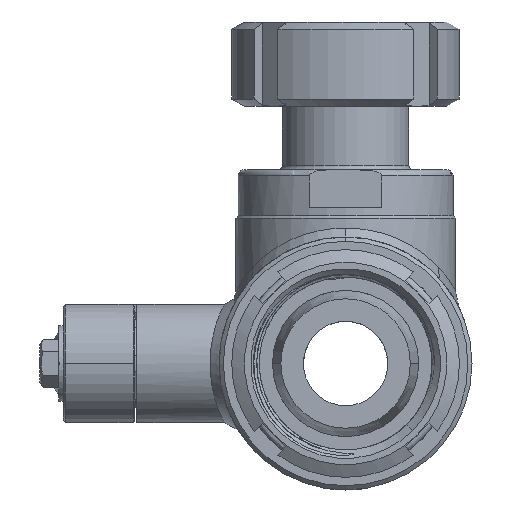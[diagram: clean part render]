
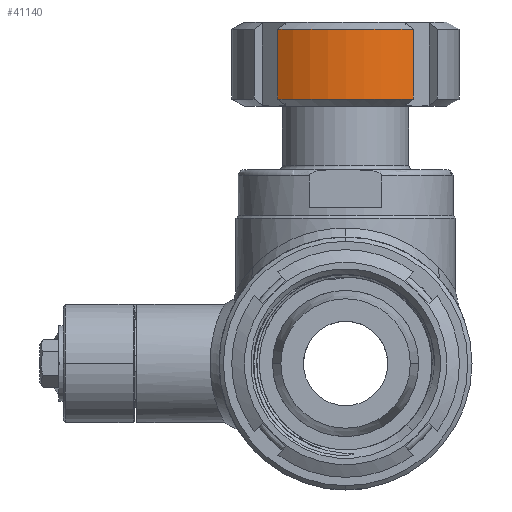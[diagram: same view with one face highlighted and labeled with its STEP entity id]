
A CAD part, left-side view. The second image highlights one B-rep face of the part: STEP entity #41140.
In plain terms, the highlighted cylindrical face has radius 27 mm (diameter 54 mm), a partial arc.
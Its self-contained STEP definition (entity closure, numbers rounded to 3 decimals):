
#4198=CARTESIAN_POINT('',(0.,0.,-62.732));
#4199=DIRECTION('',(0.,0.,-1.));
#4200=DIRECTION('',(0.595,-0.804,0.));
#4201=AXIS2_PLACEMENT_3D('',#4198,#4199,#4200);
#4214=CARTESIAN_POINT('',(16.053,-21.71,
-62.732));
#4231=CARTESIAN_POINT('',(16.053,-21.71,
-79.268));
#4241=DIRECTION('',(0.,0.,-1.));
#4242=VECTOR('',#4241,16.536);
#4243=CARTESIAN_POINT('',(16.053,-21.71,
-62.732));
#4244=LINE('',#4243,#4242);
#4571=CARTESIAN_POINT('',(-16.053,-21.71,
-62.732));
#4576=DIRECTION('',(0.,0.,-1.));
#4577=VECTOR('',#4576,16.536);
#4578=CARTESIAN_POINT('',(-16.053,-21.71,
-62.732));
#4579=LINE('',#4578,#4577);
#4588=CARTESIAN_POINT('',(-16.053,-21.71,
-79.268));
#4601=CARTESIAN_POINT('',(0.,0.,-79.268));
#4602=DIRECTION('',(0.,0.,1.));
#4603=DIRECTION('',(-0.595,-0.804,0.));
#4604=AXIS2_PLACEMENT_3D('',#4601,#4602,#4603);
#37318=VERTEX_POINT('',#4571);
#37319=VERTEX_POINT('',#4588);
#37336=VERTEX_POINT('',#4214);
#37337=VERTEX_POINT('',#4231);
#41126=CARTESIAN_POINT('',(0.,0.,-61.));
#41127=DIRECTION('',(0.,0.,-1.));
#41128=DIRECTION('',(0.707,0.707,0.));
#41129=AXIS2_PLACEMENT_3D('',#41126,#41127,#41128);
#41130=CYLINDRICAL_SURFACE('',#41129,27.);
#41131=ORIENTED_EDGE('',*,*,#41112,.F.);
#41133=ORIENTED_EDGE('',*,*,#41132,.T.);
#41135=ORIENTED_EDGE('',*,*,#41134,.F.);
#41137=ORIENTED_EDGE('',*,*,#41136,.F.);
#41138=EDGE_LOOP('',(#41131,#41133,#41135,#41137));
#41139=FACE_OUTER_BOUND('',#41138,.F.);
#41140=ADVANCED_FACE('',(#41139),#41130,.T.);
#4202=CIRCLE('',#4201,27.);
#4605=CIRCLE('',#4604,27.);
#41112=EDGE_CURVE('',#37336,#37318,#4202,.T.);
#41132=EDGE_CURVE('',#37336,#37337,#4244,.T.);
#41134=EDGE_CURVE('',#37319,#37337,#4605,.T.);
#41136=EDGE_CURVE('',#37318,#37319,#4579,.T.);
